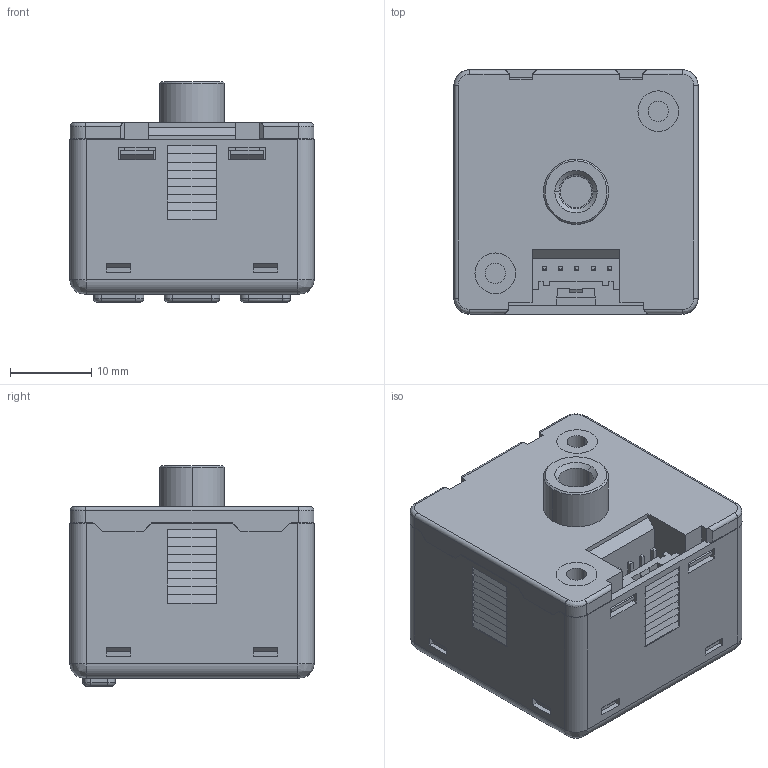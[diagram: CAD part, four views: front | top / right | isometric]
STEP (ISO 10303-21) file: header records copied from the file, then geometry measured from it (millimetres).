
FILE_DESCRIPTION (( 'STEP AP214' ), '1' );
FILE_NAME ('经济系列数显气压表主体3D图纸-20220902.STEP', '2022-09-03T10:38:39', ( '' ), ( '' ), 'SwSTEP 2.0', 'SolidWorks 2018', '' );
FILE_SCHEMA (( 'AUTOMOTIVE_DESIGN' ));
Length unit declared in the file: millimetre
Products named in the file (2): 经济系列数显气压表主体3D图纸-20220902
Bounding box: 30 x 30 x 27.05 mm (x, y, z)
Volume: 15135.3 mm3; surface area: 13320.4 mm2
Topology: 13 solids, 13 shells, 659 faces, 1842 edges, 1199 vertices
Faces by surface type: plane 493, cylinder 86, bspline 50, cone 20, torus 8, sphere 2
Entity records: 23536 total; most frequent: CARTESIAN_POINT 6388, ORIENTED_EDGE 3676, DIRECTION 3078, EDGE_CURVE 1838, LINE 1472, VECTOR 1472, VERTEX_POINT 1197, AXIS2_PLACEMENT_3D 803
